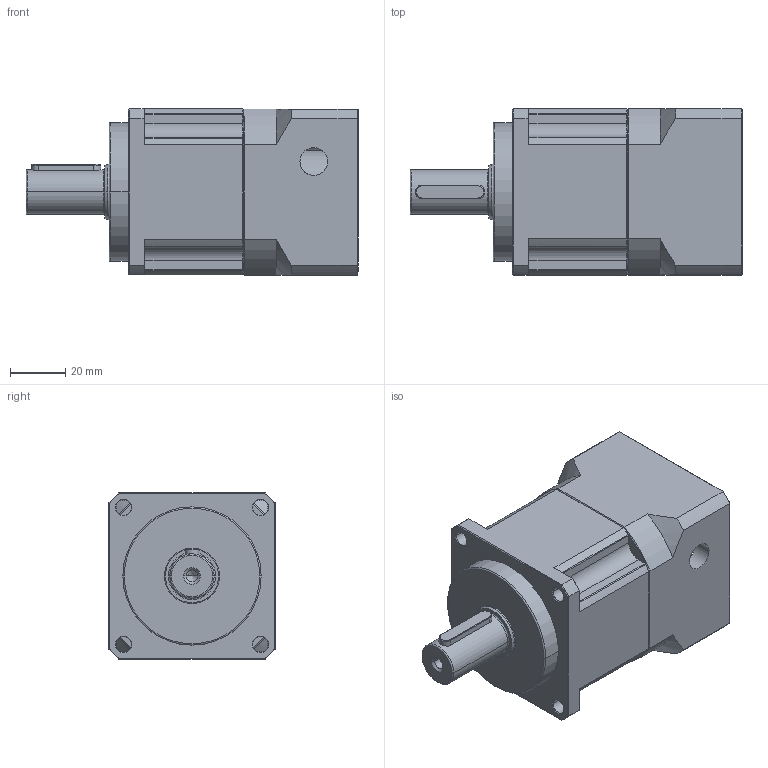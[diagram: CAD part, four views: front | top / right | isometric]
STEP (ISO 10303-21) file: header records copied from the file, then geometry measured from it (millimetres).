
FILE_DESCRIPTION (( 'STEP AP214' ), '1' );
FILE_NAME ('PGH060-L1-[ ]-P2 14-30-50-70-M5 bzscz16.STEP', '2024-05-29T02:47:23', ( '' ), ( '' ), 'SwSTEP 2.0', 'SolidWorks 2021', '' );
FILE_SCHEMA (( 'AUTOMOTIVE_DESIGN' ));
Length unit declared in the file: millimetre
Products named in the file (1): PGH060-L1-[   ]-P2 14-30-50-70-M5 bzscz16
Bounding box: 120 x 60 x 60 mm (x, y, z)
Volume: 245426.2 mm3; surface area: 60626.9 mm2
Topology: 10 solids, 10 shells, 1431 faces, 3704 edges, 2370 vertices
Faces by surface type: plane 723, bspline 312, cylinder 210, cone 162, torus 24
Entity records: 59772 total; most frequent: CARTESIAN_POINT 25216, ORIENTED_EDGE 7328, DIRECTION 5817, EDGE_CURVE 3664, VERTEX_POINT 2370, VECTOR 2319, LINE 2319, AXIS2_PLACEMENT_3D 1749
